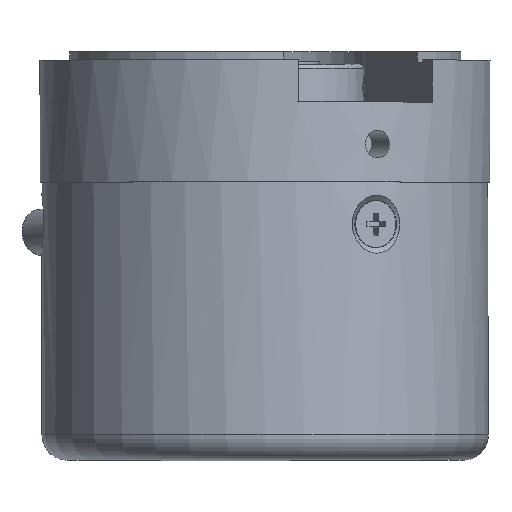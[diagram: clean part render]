
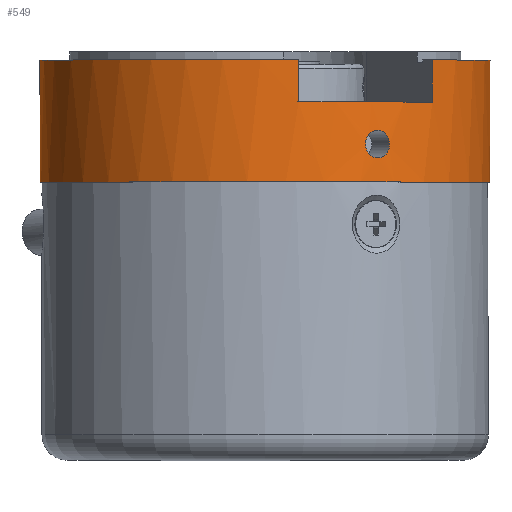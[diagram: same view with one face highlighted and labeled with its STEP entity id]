
A CAD part, top view. The second image highlights one B-rep face of the part: STEP entity #549.
In plain terms, the highlighted cylindrical face has radius 26.75 mm (diameter 53.5 mm), a full revolution.
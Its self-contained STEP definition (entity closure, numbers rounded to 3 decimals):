
#549 = ADVANCED_FACE( '', ( #1368, #1369, #1370 ), #1371, .T. );
#1368 = FACE_OUTER_BOUND( '', #3605, .T. );
#1369 = FACE_BOUND( '', #3606, .T. );
#1370 = FACE_OUTER_BOUND( '', #3607, .T. );
#1371 = CYLINDRICAL_SURFACE( '', #3608, 26.75 );
#3605 = EDGE_LOOP( '', ( #6233, #6234, #6235, #6236 ) );
#3606 = EDGE_LOOP( '', ( #6237 ) );
#3607 = EDGE_LOOP( '', ( #6238, #6239, #6240, #6241 ) );
#3608 = AXIS2_PLACEMENT_3D( '', #6242, #6243, #6244 );
#6233 = ORIENTED_EDGE( '', *, *, #8505, .F. );
#6234 = ORIENTED_EDGE( '', *, *, #8506, .F. );
#6235 = ORIENTED_EDGE( '', *, *, #8507, .F. );
#6236 = ORIENTED_EDGE( '', *, *, #8508, .F. );
#6237 = ORIENTED_EDGE( '', *, *, #8440, .T. );
#6238 = ORIENTED_EDGE( '', *, *, #8509, .F. );
#6239 = ORIENTED_EDGE( '', *, *, #8510, .T. );
#6240 = ORIENTED_EDGE( '', *, *, #8511, .F. );
#6241 = ORIENTED_EDGE( '', *, *, #8512, .F. );
#6242 = CARTESIAN_POINT( '', ( 0., 27.9, 0. ) );
#6243 = DIRECTION( '', ( 0., -1., 0. ) );
#6244 = DIRECTION( '', ( 0., 0., -1. ) );
#8440 = EDGE_CURVE( '', #9722, #9722, #9723, .T. );
#8505 = EDGE_CURVE( '', #9828, #9829, #9830, .T. );
#8506 = EDGE_CURVE( '', #9831, #9828, #9832, .T. );
#8507 = EDGE_CURVE( '', #9833, #9831, #9834, .T. );
#8508 = EDGE_CURVE( '', #9829, #9833, #9835, .T. );
#8509 = EDGE_CURVE( '', #9836, #9837, #9838, .T. );
#8510 = EDGE_CURVE( '', #9836, #9839, #9840, .T. );
#8511 = EDGE_CURVE( '', #9841, #9839, #9842, .T. );
#8512 = EDGE_CURVE( '', #9837, #9841, #9843, .T. );
#9722 = VERTEX_POINT( '', #13200 );
#9723 = B_SPLINE_CURVE_WITH_KNOTS( '', 3, ( #13201, #13202, #13203, #13204, #13205, #13206, #13207, #13208, #13209, #13210, #13211, #13212, #13213, #13214, #13215, #13216, #13217, #13218, #13219, #13220, #13221, #13222, #13223, #13224, #13225 ), .UNSPECIFIED., .T., .F., ( 2, 1, 1, 1, 1, 1, 1, 1, 1, 1, 1, 1, 1, 1, 1, 1, 1, 1, 1, 1, 1, 1, 1, 1, 1, 1, 2 ), ( -0.063, -0.032, 0., 0.062, 0.125, 0.156, 0.187, 0.219, 0.25, 0.312, 0.375, 0.437, 0.5, 0.531, 0.562, 0.594, 0.625, 0.687, 0.75, 0.812, 0.874, 0.906, 0.937, 0.968, 1., 1.062, 1.125 ), .UNSPECIFIED. );
#9828 = VERTEX_POINT( '', #13369 );
#9829 = VERTEX_POINT( '', #13370 );
#9830 = B_SPLINE_CURVE_WITH_KNOTS( '', 3, ( #13371, #13372, #13373, #13374 ), .UNSPECIFIED., .F., .F., ( 4, 4 ), ( 0., 0. ), .UNSPECIFIED. );
#9831 = VERTEX_POINT( '', #13375 );
#9832 = CIRCLE( '', #13376, 26.75 );
#9833 = VERTEX_POINT( '', #13377 );
#9834 = B_SPLINE_CURVE_WITH_KNOTS( '', 3, ( #13378, #13379, #13380, #13381 ), .UNSPECIFIED., .F., .F., ( 4, 4 ), ( 0., 0. ), .UNSPECIFIED. );
#9835 = B_SPLINE_CURVE_WITH_KNOTS( '', 3, ( #13382, #13383, #13384, #13385, #13386, #13387, #13388, #13389, #13390, #13391, #13392, #13393, #13394, #13395 ), .UNSPECIFIED., .F., .F., ( 4, 2, 2, 2, 2, 2, 4 ), ( 0., 0.002, 0.003, 0.003, 0.004, 0.005, 0.007 ), .UNSPECIFIED. );
#9836 = VERTEX_POINT( '', #13396 );
#9837 = VERTEX_POINT( '', #13397 );
#9838 = LINE( '', #13398, #13399 );
#9839 = VERTEX_POINT( '', #13400 );
#9840 = CIRCLE( '', #13401, 26.75 );
#9841 = VERTEX_POINT( '', #13402 );
#9842 = LINE( '', #13403, #13404 );
#9843 = CIRCLE( '', #13405, 26.75 );
#13200 = CARTESIAN_POINT( '', ( 11.921, 23.9, 23.947 ) );
#13201 = CARTESIAN_POINT( '', ( 11.94, 23.575, 23.937 ) );
#13202 = CARTESIAN_POINT( '', ( 11.901, 24.006, 23.957 ) );
#13203 = CARTESIAN_POINT( '', ( 11.998, 24.548, 23.909 ) );
#13204 = CARTESIAN_POINT( '', ( 12.272, 25.007, 23.77 ) );
#13205 = CARTESIAN_POINT( '', ( 12.568, 25.28, 23.614 ) );
#13206 = CARTESIAN_POINT( '', ( 12.821, 25.434, 23.478 ) );
#13207 = CARTESIAN_POINT( '', ( 13.093, 25.528, 23.327 ) );
#13208 = CARTESIAN_POINT( '', ( 13.467, 25.572, 23.115 ) );
#13209 = CARTESIAN_POINT( '', ( 13.933, 25.464, 22.838 ) );
#13210 = CARTESIAN_POINT( '', ( 14.398, 25.098, 22.546 ) );
#13211 = CARTESIAN_POINT( '', ( 14.707, 24.549, 22.345 ) );
#13212 = CARTESIAN_POINT( '', ( 14.796, 24.007, 22.285 ) );
#13213 = CARTESIAN_POINT( '', ( 14.76, 23.577, 22.309 ) );
#13214 = CARTESIAN_POINT( '', ( 14.682, 23.265, 22.361 ) );
#13215 = CARTESIAN_POINT( '', ( 14.553, 22.979, 22.445 ) );
#13216 = CARTESIAN_POINT( '', ( 14.323, 22.644, 22.593 ) );
#13217 = CARTESIAN_POINT( '', ( 13.935, 22.336, 22.837 ) );
#13218 = CARTESIAN_POINT( '', ( 13.378, 22.207, 23.168 ) );
#13219 = CARTESIAN_POINT( '', ( 12.812, 22.335, 23.485 ) );
#13220 = CARTESIAN_POINT( '', ( 12.406, 22.642, 23.7 ) );
#13221 = CARTESIAN_POINT( '', ( 12.163, 22.976, 23.825 ) );
#13222 = CARTESIAN_POINT( '', ( 12.025, 23.263, 23.895 ) );
#13223 = CARTESIAN_POINT( '', ( 11.94, 23.575, 23.937 ) );
#13224 = CARTESIAN_POINT( '', ( 11.901, 24.006, 23.957 ) );
#13225 = CARTESIAN_POINT( '', ( 11.998, 24.548, 23.909 ) );
#13369 = CARTESIAN_POINT( '', ( -16.144, 19.4, -21.329 ) );
#13370 = CARTESIAN_POINT( '', ( -16.055, 19.472, -21.396 ) );
#13371 = CARTESIAN_POINT( '', ( -16.144, 19.4, -21.329 ) );
#13372 = CARTESIAN_POINT( '', ( -16.115, 19.424, -21.351 ) );
#13373 = CARTESIAN_POINT( '', ( -16.085, 19.448, -21.374 ) );
#13374 = CARTESIAN_POINT( '', ( -16.055, 19.472, -21.396 ) );
#13375 = CARTESIAN_POINT( '', ( -10.4, 19.4, -24.646 ) );
#13376 = AXIS2_PLACEMENT_3D( '', #15567, #15568, #15569 );
#13377 = CARTESIAN_POINT( '', ( -10.502, 19.472, -24.602 ) );
#13378 = CARTESIAN_POINT( '', ( -10.502, 19.472, -24.602 ) );
#13379 = CARTESIAN_POINT( '', ( -10.468, 19.448, -24.617 ) );
#13380 = CARTESIAN_POINT( '', ( -10.434, 19.424, -24.631 ) );
#13381 = CARTESIAN_POINT( '', ( -10.4, 19.4, -24.646 ) );
#13382 = CARTESIAN_POINT( '', ( -16.055, 19.472, -21.396 ) );
#13383 = CARTESIAN_POINT( '', ( -15.671, 19.773, -21.685 ) );
#13384 = CARTESIAN_POINT( '', ( -15.252, 20., -21.982 ) );
#13385 = CARTESIAN_POINT( '', ( -14.571, 20.232, -22.435 ) );
#13386 = CARTESIAN_POINT( '', ( -14.337, 20.291, -22.585 ) );
#13387 = CARTESIAN_POINT( '', ( -13.864, 20.368, -22.879 ) );
#13388 = CARTESIAN_POINT( '', ( -13.623, 20.387, -23.023 ) );
#13389 = CARTESIAN_POINT( '', ( -13.135, 20.388, -23.305 ) );
#13390 = CARTESIAN_POINT( '', ( -12.885, 20.368, -23.444 ) );
#13391 = CARTESIAN_POINT( '', ( -12.393, 20.291, -23.708 ) );
#13392 = CARTESIAN_POINT( '', ( -12.149, 20.234, -23.833 ) );
#13393 = CARTESIAN_POINT( '', ( -11.423, 20.005, -24.194 ) );
#13394 = CARTESIAN_POINT( '', ( -10.945, 19.774, -24.413 ) );
#13395 = CARTESIAN_POINT( '', ( -10.502, 19.472, -24.602 ) );
#13396 = CARTESIAN_POINT( '', ( 19.844, 28.9, 17.938 ) );
#13397 = CARTESIAN_POINT( '', ( 19.844, 33.9, 17.938 ) );
#13398 = CARTESIAN_POINT( '', ( 19.844, 19.9, 17.938 ) );
#13399 = VECTOR( '', #15570, 1000. );
#13400 = CARTESIAN_POINT( '', ( 3.984, 28.9, 26.452 ) );
#13401 = AXIS2_PLACEMENT_3D( '', #15571, #15572, #15573 );
#13402 = CARTESIAN_POINT( '', ( 3.984, 33.9, 26.452 ) );
#13403 = CARTESIAN_POINT( '', ( 3.984, 19.9, 26.452 ) );
#13404 = VECTOR( '', #15574, 1000. );
#13405 = AXIS2_PLACEMENT_3D( '', #15575, #15576, #15577 );
#15567 = CARTESIAN_POINT( '', ( 0., 19.4, 0. ) );
#15568 = DIRECTION( '', ( 0., -1., 0. ) );
#15569 = DIRECTION( '', ( 0., 0., -1. ) );
#15570 = DIRECTION( '', ( 0., 1., 0. ) );
#15571 = CARTESIAN_POINT( '', ( 0., 28.9, 0. ) );
#15572 = DIRECTION( '', ( 0., -1., 0. ) );
#15573 = DIRECTION( '', ( 0.473, 0., 0.881 ) );
#15574 = DIRECTION( '', ( 0., -1., 0. ) );
#15575 = CARTESIAN_POINT( '', ( 0., 33.9, 0. ) );
#15576 = DIRECTION( '', ( 0., 1., 0. ) );
#15577 = DIRECTION( '', ( -0.473, 0., -0.881 ) );
